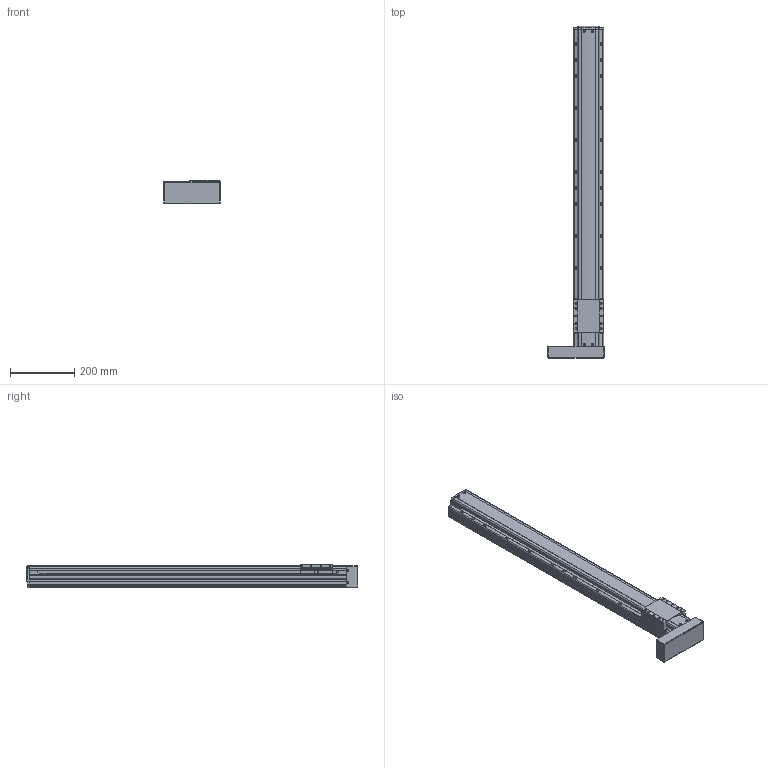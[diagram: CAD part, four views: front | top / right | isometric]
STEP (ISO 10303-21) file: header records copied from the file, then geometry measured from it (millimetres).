
FILE_DESCRIPTION(('STEP AP214'),'1');
FILE_NAME('Z:/Web/3D/PSA95/STP/PSA95-800 (3D)/PSA95ㅁㅁ-800PL.stp','2014-07-03T00:53:14',(' '),(' '),'Spatial InterOp 3D',' ',' ');
FILE_SCHEMA(('automotive_design'));
Length unit declared in the file: millimetre
Products named in the file (23): BASE; RRCV; 스크루 : Round - M4.0 x 10.0; 너트 : Square - M10.0 x 220.7419; RR1500; FRCV-090; 스크루 : Round - M4.0 x 6.0; SLBL-PA90; MOTOR PLATE COVER; 스크루 : Round - M3.0 x 6.0
Bounding box: 179.13 x 1036.5 x 74 mm (x, y, z)
Volume: 5787253.6 mm3; surface area: 569881.2 mm2
Topology: 23 solids, 23 shells, 1963 faces, 5278 edges, 3354 vertices
Faces by surface type: plane 1059, cylinder 619, cone 205, sphere 42, bspline 24, torus 14
Entity records: 79198 total; most frequent: CARTESIAN_POINT 13705, DIRECTION 10380, ORIENTED_EDGE 10268, EDGE_CURVE 5134, AXIS2_PLACEMENT_3D 3463, LINE 3454, VECTOR 3454, VERTEX_POINT 3354
